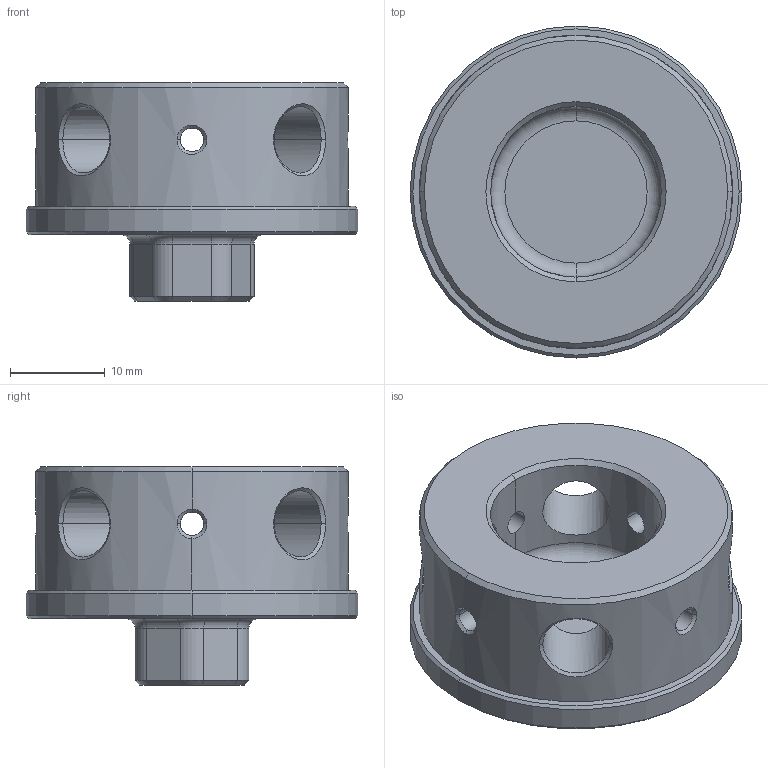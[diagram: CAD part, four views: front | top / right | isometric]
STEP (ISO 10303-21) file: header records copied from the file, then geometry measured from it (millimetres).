
FILE_DESCRIPTION((''),'2;1');
FILE_NAME('JXB-NE30C-PIPE-PAN-XIN','2019-12-03T',('Win10'),(''),'PRO/ENGINEER BY PARAMETRIC TECHNOLOGY CORPORATION, 2010280','PRO/ENGINEER BY PARAMETRIC TECHNOLOGY CORPORATION, 2010280','');
FILE_SCHEMA(('AUTOMOTIVE_DESIGN_CC2 { 1 2 10303 214 -1 1 5 2 }'));
Length unit declared in the file: millimetre
Products named in the file (1): JXB-NE30C-PIPE-PAN-XIN
Bounding box: 35 x 35 x 23 mm (x, y, z)
Volume: 10332.8 mm3; surface area: 5175.1 mm2
Topology: 1 solids, 1 shells, 129 faces, 310 edges, 176 vertices
Faces by surface type: cylinder 46, cone 38, bspline 20, plane 17, torus 8
Entity records: 6357 total; most frequent: CARTESIAN_POINT 2599, ORIENTED_EDGE 596, DIRECTION 554, PRESENTATION_STYLE_ASSIGNMENT 299, STYLED_ITEM 299, CURVE_STYLE 298, EDGE_CURVE 298, AXIS2_PLACEMENT_3D 207
